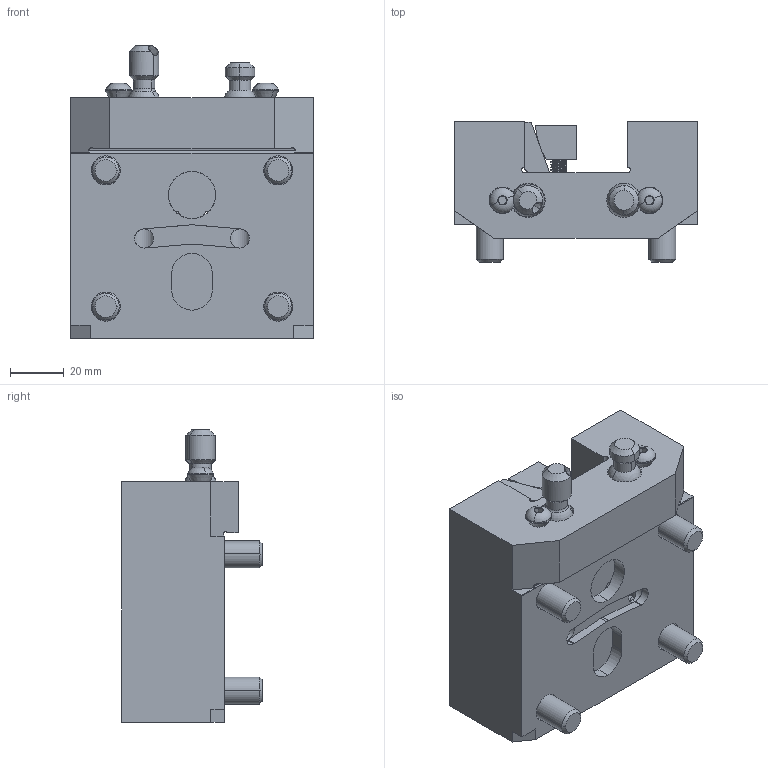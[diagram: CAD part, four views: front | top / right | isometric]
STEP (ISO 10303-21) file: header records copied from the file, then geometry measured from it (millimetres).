
FILE_DESCRIPTION (( 'STEP AP203' ), '1' );
FILE_NAME ('04-0799.STEP', '2022-07-12T16:33:59', ( '' ), ( '' ), 'SwSTEP 2.0', 'SolidWorks 2021', '' );
FILE_SCHEMA (( 'CONFIG_CONTROL_DESIGN' ));
Length unit declared in the file: inch
Products named in the file (14): 04-0799; 22-8749; 20-3797; 40-0003_40-0003; 20-3796; 20-10446A; 10000016468; 20-2077; 40-1626_40-1626; 40-0120; 10000011183; 57-0026; 40-1640; 10000015933
Assembly tree (20 placements, depth 3):
  04-0799
    10000011183
      20-10446A
      22-8749  x2
      57-0026  x2
      10000015933
      20-3796
      20-3797
      40-1626_40-1626  x2
      40-1640
      10000016468
      40-0120  x4
      40-0003_40-0003  x2
      20-2077
Bounding box: 90 x 52.06 x 108.69 mm (x, y, z)
Volume: 251242.3 mm3; surface area: 67402.5 mm2
Topology: 19 solids, 20 shells, 718 faces, 1841 edges, 1169 vertices
Faces by surface type: cylinder 403, plane 161, cone 116, torus 24, bspline 10, sphere 4
Entity records: 19300 total; most frequent: CARTESIAN_POINT 6972, ORIENTED_EDGE 2328, DIRECTION 2160, EDGE_CURVE 1164, AXIS2_PLACEMENT_3D 834, VERTEX_POINT 746, EDGE_LOOP 526, LINE 492
